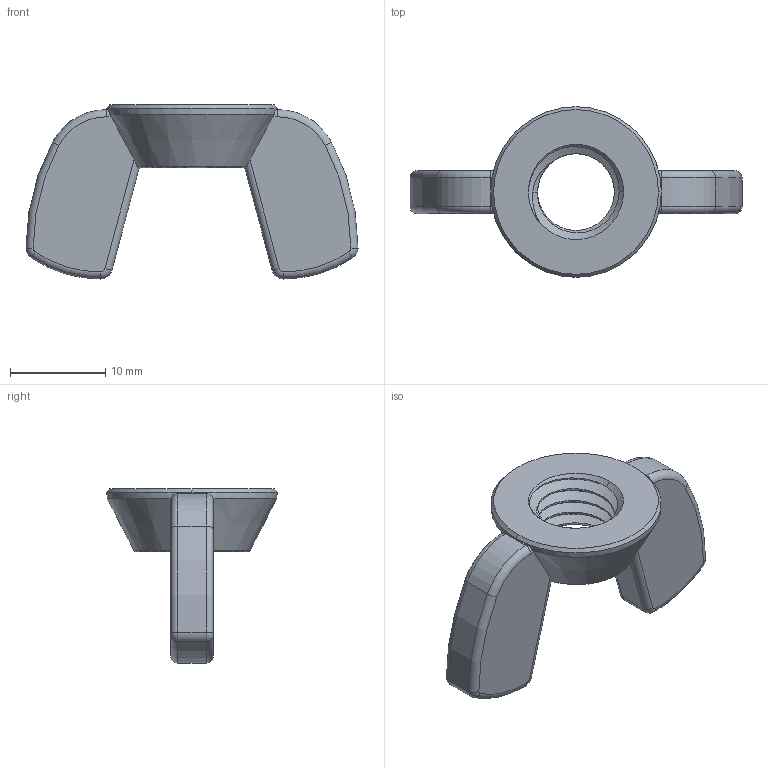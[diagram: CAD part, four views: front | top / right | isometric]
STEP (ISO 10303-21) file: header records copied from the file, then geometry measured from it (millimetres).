
FILE_DESCRIPTION (( 'STEP AP203' ), '1' );
FILE_NAME ('WING NUT M10 x 1.5mm Thread.STEP', '2017-05-02T01:03:31', ( '' ), ( '' ), 'SwSTEP 2.0', 'SolidWorks 2014', '' );
FILE_SCHEMA (( 'CONFIG_CONTROL_DESIGN' ));
Length unit declared in the file: millimetre
Products named in the file (1): WING NUT M10 x 1.5mm Thread
Bounding box: 34.9 x 17.94 x 18.3 mm (x, y, z)
Volume: 2141.5 mm3; surface area: 1725.1 mm2
Topology: 1 solids, 1 shells, 81 faces, 208 edges, 129 vertices
Faces by surface type: cylinder 35, torus 22, cone 12, plane 10, bspline 2
Entity records: 3113 total; most frequent: CARTESIAN_POINT 1175, ORIENTED_EDGE 416, DIRECTION 387, EDGE_CURVE 208, AXIS2_PLACEMENT_3D 167, VERTEX_POINT 129, CIRCLE 87, EDGE_LOOP 83
